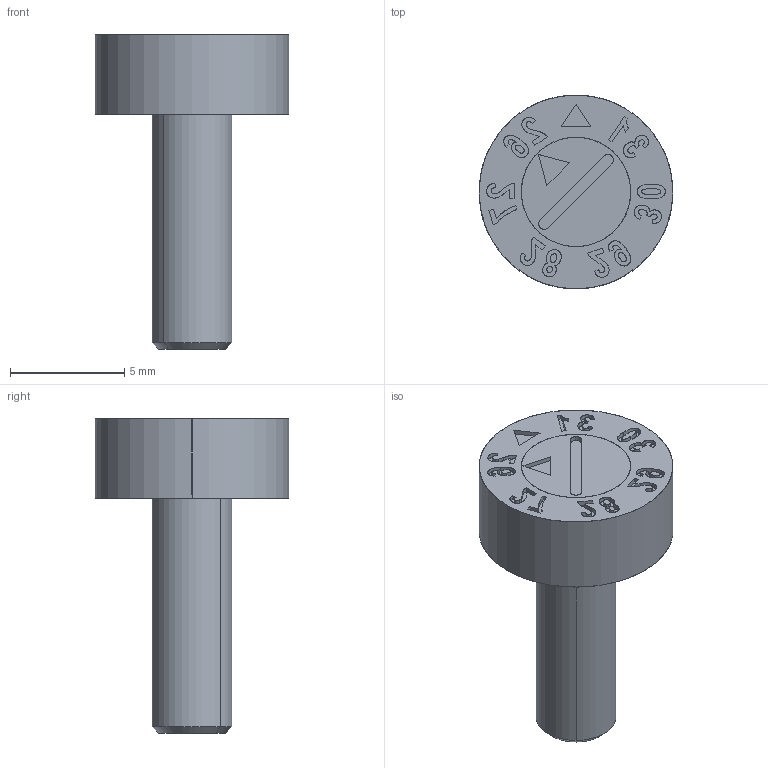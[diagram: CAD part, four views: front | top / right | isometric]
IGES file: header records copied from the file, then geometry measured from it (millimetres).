
Start section: SolidWorks IGES file using analytic representation for surfaces
Global section: file name: C:\temp\GO\Files\DMDLKP12-266.igs; native system: SolidWorks 2023; preprocessor: SolidWorks 2023; author: andrew.sweeney; date: 250415.141436; units: millimetre
Bounding box: 8.5 x 8.5 x 13.8 mm (x, y, z)
Surface area: 451.7 mm2 (no closed solid volume)
Topology: 0 solids, 0 shells, 200 faces, 2712 edges, 2710 vertices
Faces by surface type: bspline 184, revolution 16
